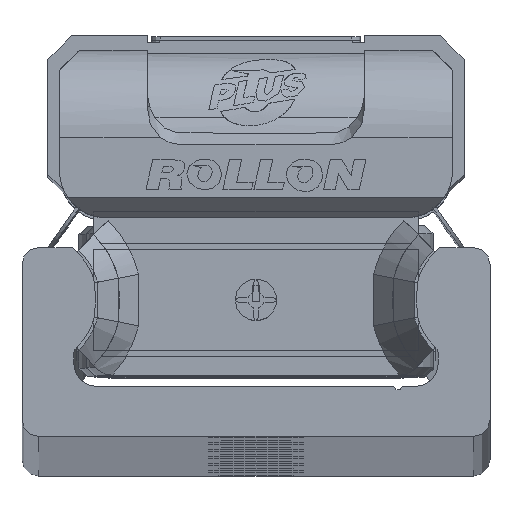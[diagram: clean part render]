
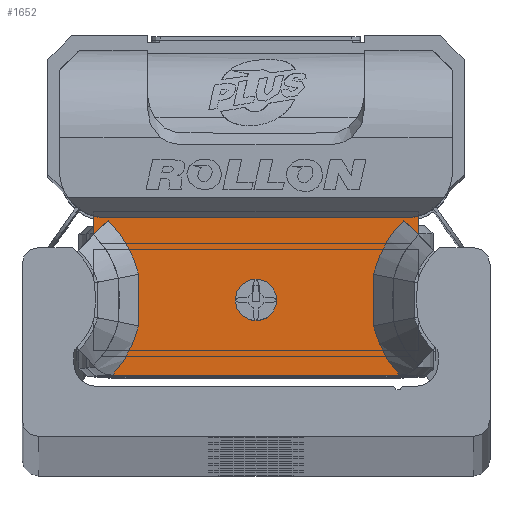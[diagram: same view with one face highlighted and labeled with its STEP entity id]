
A CAD part, top view. The second image highlights one B-rep face of the part: STEP entity #1652.
In plain terms, the highlighted planar face has unit normal (0, 0, 1) as drawn and (0, 0, -1) by its records, which use the part's own axes.
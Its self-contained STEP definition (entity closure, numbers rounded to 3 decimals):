
#1652 = ADVANCED_FACE( '', ( #3570, #3571 ), #3572, .F. );
#3570 = FACE_BOUND( '', #5865, .T. );
#3571 = FACE_OUTER_BOUND( '', #5866, .T. );
#3572 = PLANE( '', #5867 );
#5865 = EDGE_LOOP( '', ( #10231 ) );
#5866 = EDGE_LOOP( '', ( #10232, #10233, #10234, #10235, #10236, #10237, #10238, #10239, #10240, #10241, #10242, #10243, #10244, #10245 ) );
#5867 = AXIS2_PLACEMENT_3D( '', #10246, #10247, #10248 );
#10231 = ORIENTED_EDGE( '', *, *, #14165, .T. );
#10232 = ORIENTED_EDGE( '', *, *, #13860, .F. );
#10233 = ORIENTED_EDGE( '', *, *, #12856, .T. );
#10234 = ORIENTED_EDGE( '', *, *, #14166, .T. );
#10235 = ORIENTED_EDGE( '', *, *, #12777, .T. );
#10236 = ORIENTED_EDGE( '', *, *, #14167, .T. );
#10237 = ORIENTED_EDGE( '', *, *, #13907, .T. );
#10238 = ORIENTED_EDGE( '', *, *, #12848, .T. );
#10239 = ORIENTED_EDGE( '', *, *, #13599, .T. );
#10240 = ORIENTED_EDGE( '', *, *, #14168, .T. );
#10241 = ORIENTED_EDGE( '', *, *, #14169, .T. );
#10242 = ORIENTED_EDGE( '', *, *, #13734, .T. );
#10243 = ORIENTED_EDGE( '', *, *, #13124, .T. );
#10244 = ORIENTED_EDGE( '', *, *, #14170, .T. );
#10245 = ORIENTED_EDGE( '', *, *, #14171, .T. );
#10246 = CARTESIAN_POINT( '', ( 9.7, 4.89, -10.6 ) );
#10247 = DIRECTION( '', ( 0., 0., 1. ) );
#10248 = DIRECTION( '', ( 1., 0., 0. ) );
#12777 = EDGE_CURVE( '', #15235, #15245, #15247, .T. );
#12848 = EDGE_CURVE( '', #15367, #15368, #15369, .T. );
#12856 = EDGE_CURVE( '', #15383, #15381, #15384, .T. );
#13124 = EDGE_CURVE( '', #15838, #15836, #15839, .T. );
#13599 = EDGE_CURVE( '', #15368, #16581, #16583, .T. );
#13734 = EDGE_CURVE( '', #16207, #15838, #16786, .T. );
#13860 = EDGE_CURVE( '', #15383, #16967, #16968, .T. );
#13907 = EDGE_CURVE( '', #14678, #15367, #17033, .T. );
#14165 = EDGE_CURVE( '', #17371, #17371, #17372, .T. );
#14166 = EDGE_CURVE( '', #15381, #15235, #17373, .T. );
#14167 = EDGE_CURVE( '', #15245, #14678, #17374, .T. );
#14168 = EDGE_CURVE( '', #16581, #14691, #17375, .T. );
#14169 = EDGE_CURVE( '', #14691, #16207, #17376, .T. );
#14170 = EDGE_CURVE( '', #15836, #17377, #17378, .T. );
#14171 = EDGE_CURVE( '', #17377, #16967, #17379, .T. );
#14678 = VERTEX_POINT( '', #17975 );
#14691 = VERTEX_POINT( '', #18015 );
#15235 = VERTEX_POINT( '', #18763 );
#15245 = VERTEX_POINT( '', #18775 );
#15247 = CIRCLE( '', #18778, 2.8 );
#15367 = VERTEX_POINT( '', #18925 );
#15368 = VERTEX_POINT( '', #18926 );
#15369 = B_SPLINE_CURVE_WITH_KNOTS( '', 2, ( #18927, #18928, #18929, #18930, #18931 ), .UNSPECIFIED., .F., .F., ( 3, 2, 3 ), ( 0., 0.5, 1. ), .UNSPECIFIED. );
#15381 = VERTEX_POINT( '', #18948 );
#15383 = VERTEX_POINT( '', #18951 );
#15384 = CIRCLE( '', #18952, 2.8 );
#15836 = VERTEX_POINT( '', #19614 );
#15838 = VERTEX_POINT( '', #19617 );
#15839 = B_SPLINE_CURVE_WITH_KNOTS( '', 2, ( #19618, #19619, #19620 ), .UNSPECIFIED., .F., .F., ( 3, 3 ), ( 0., 1. ), .UNSPECIFIED. );
#16207 = VERTEX_POINT( '', #20113 );
#16581 = VERTEX_POINT( '', #20680 );
#16583 = B_SPLINE_CURVE_WITH_KNOTS( '', 2, ( #20683, #20684, #20685 ), .UNSPECIFIED., .F., .F., ( 3, 3 ), ( 0., 1. ), .UNSPECIFIED. );
#16786 = B_SPLINE_CURVE_WITH_KNOTS( '', 2, ( #20986, #20987, #20988 ), .UNSPECIFIED., .F., .F., ( 3, 3 ), ( 0.1, 1. ), .UNSPECIFIED. );
#16967 = VERTEX_POINT( '', #21238 );
#16968 = LINE( '', #21239, #21240 );
#17033 = LINE( '', #21326, #21327 );
#17371 = VERTEX_POINT( '', #21830 );
#17372 = CIRCLE( '', #21831, 1.25 );
#17373 = LINE( '', #21832, #21833 );
#17374 = LINE( '', #21834, #21835 );
#17375 = B_SPLINE_CURVE_WITH_KNOTS( '', 2, ( #21836, #21837, #21838 ), .UNSPECIFIED., .F., .F., ( 3, 3 ), ( 0., 1. ), .UNSPECIFIED. );
#17376 = LINE( '', #21839, #21840 );
#17377 = VERTEX_POINT( '', #21841 );
#17378 = B_SPLINE_CURVE_WITH_KNOTS( '', 2, ( #21842, #21843, #21844 ), .UNSPECIFIED., .F., .F., ( 3, 3 ), ( 0., 1. ), .UNSPECIFIED. );
#17379 = LINE( '', #21845, #21846 );
#17975 = CARTESIAN_POINT( '', ( 9.7, 3.497, -10.6 ) );
#18015 = CARTESIAN_POINT( '', ( 8.59, -4.893, -10.6 ) );
#18763 = CARTESIAN_POINT( '', ( 8.95, 4.51, -10.6 ) );
#18775 = CARTESIAN_POINT( '', ( 9.7, 4.612, -10.6 ) );
#18778 = AXIS2_PLACEMENT_3D( '', #23131, #23132, #23133 );
#18925 = CARTESIAN_POINT( '', ( 8.853, 4.366, -10.6 ) );
#18926 = CARTESIAN_POINT( '', ( 7.031, 1.144, -10.6 ) );
#18927 = CARTESIAN_POINT( '', ( 8.853, 4.366, -10.6 ) );
#18928 = CARTESIAN_POINT( '', ( 8.182, 3.708, -10.6 ) );
#18929 = CARTESIAN_POINT( '', ( 7.715, 2.883, -10.6 ) );
#18930 = CARTESIAN_POINT( '', ( 7.249, 2.058, -10.6 ) );
#18931 = CARTESIAN_POINT( '', ( 7.031, 1.144, -10.6 ) );
#18948 = CARTESIAN_POINT( '', ( -8.95, 4.51, -10.6 ) );
#18951 = CARTESIAN_POINT( '', ( -9.7, 4.612, -10.6 ) );
#18952 = AXIS2_PLACEMENT_3D( '', #23246, #23247, #23248 );
#19614 = CARTESIAN_POINT( '', ( -7.031, 1.144, -10.6 ) );
#19617 = CARTESIAN_POINT( '', ( -7.031, -1.944, -10.6 ) );
#19618 = CARTESIAN_POINT( '', ( -7.031, -1.944, -10.6 ) );
#19619 = CARTESIAN_POINT( '', ( -6.929, -0.4, -10.6 ) );
#19620 = CARTESIAN_POINT( '', ( -7.031, 1.144, -10.6 ) );
#20113 = CARTESIAN_POINT( '', ( -8.59, -4.893, -10.6 ) );
#20680 = CARTESIAN_POINT( '', ( 7.031, -1.944, -10.6 ) );
#20683 = CARTESIAN_POINT( '', ( 7.031, 1.144, -10.6 ) );
#20684 = CARTESIAN_POINT( '', ( 6.929, -0.4, -10.6 ) );
#20685 = CARTESIAN_POINT( '', ( 7.031, -1.944, -10.6 ) );
#20986 = CARTESIAN_POINT( '', ( -8.587, -4.89, -10.6 ) );
#20987 = CARTESIAN_POINT( '', ( -7.432, -3.63, -10.6 ) );
#20988 = CARTESIAN_POINT( '', ( -7.031, -1.944, -10.6 ) );
#21238 = CARTESIAN_POINT( '', ( -9.7, 3.494, -10.6 ) );
#21239 = CARTESIAN_POINT( '', ( -9.7, 4.89, -10.6 ) );
#21240 = VECTOR( '', #24533, 1000. );
#21326 = CARTESIAN_POINT( '', ( 9.7, 3.501, -10.6 ) );
#21327 = VECTOR( '', #24582, 1000. );
#21830 = CARTESIAN_POINT( '', ( 1.25, -0.39, -10.6 ) );
#21831 = AXIS2_PLACEMENT_3D( '', #24876, #24877, #24878 );
#21832 = CARTESIAN_POINT( '', ( 9.7, 4.51, -10.6 ) );
#21833 = VECTOR( '', #24879, 1000. );
#21834 = CARTESIAN_POINT( '', ( 9.7, 4.89, -10.6 ) );
#21835 = VECTOR( '', #24880, 1000. );
#21836 = CARTESIAN_POINT( '', ( 7.031, -1.944, -10.6 ) );
#21837 = CARTESIAN_POINT( '', ( 7.429, -3.615, -10.6 ) );
#21838 = CARTESIAN_POINT( '', ( 8.588, -4.89, -10.6 ) );
#21839 = CARTESIAN_POINT( '', ( 9.7, -4.89, -10.6 ) );
#21840 = VECTOR( '', #24881, 1000. );
#21841 = CARTESIAN_POINT( '', ( -8.853, 4.366, -10.6 ) );
#21842 = CARTESIAN_POINT( '', ( -7.031, 1.144, -10.6 ) );
#21843 = CARTESIAN_POINT( '', ( -7.477, 3.018, -10.6 ) );
#21844 = CARTESIAN_POINT( '', ( -8.853, 4.366, -10.6 ) );
#21845 = CARTESIAN_POINT( '', ( -8.853, 4.366, -10.6 ) );
#21846 = VECTOR( '', #24882, 1000. );
#23131 = CARTESIAN_POINT( '', ( 8.95, 7.31, -10.6 ) );
#23132 = DIRECTION( '', ( 0., 0., 1. ) );
#23133 = DIRECTION( '', ( 1., 0., 0. ) );
#23246 = CARTESIAN_POINT( '', ( -8.95, 7.31, -10.6 ) );
#23247 = DIRECTION( '', ( 0., 0., 1. ) );
#23248 = DIRECTION( '', ( 1., 0., 0. ) );
#24533 = DIRECTION( '', ( 0., -1., 0. ) );
#24582 = DIRECTION( '', ( -0.7, 0.714, 0. ) );
#24876 = CARTESIAN_POINT( '', ( 0., -0.39, -10.6 ) );
#24877 = DIRECTION( '', ( 0., 0., 1. ) );
#24878 = DIRECTION( '', ( 1., 0., 0. ) );
#24879 = DIRECTION( '', ( 1., 0., 0. ) );
#24880 = DIRECTION( '', ( 0., -1., 0. ) );
#24881 = DIRECTION( '', ( -1., 0., 0. ) );
#24882 = DIRECTION( '', ( -0.7, -0.714, 0. ) );
